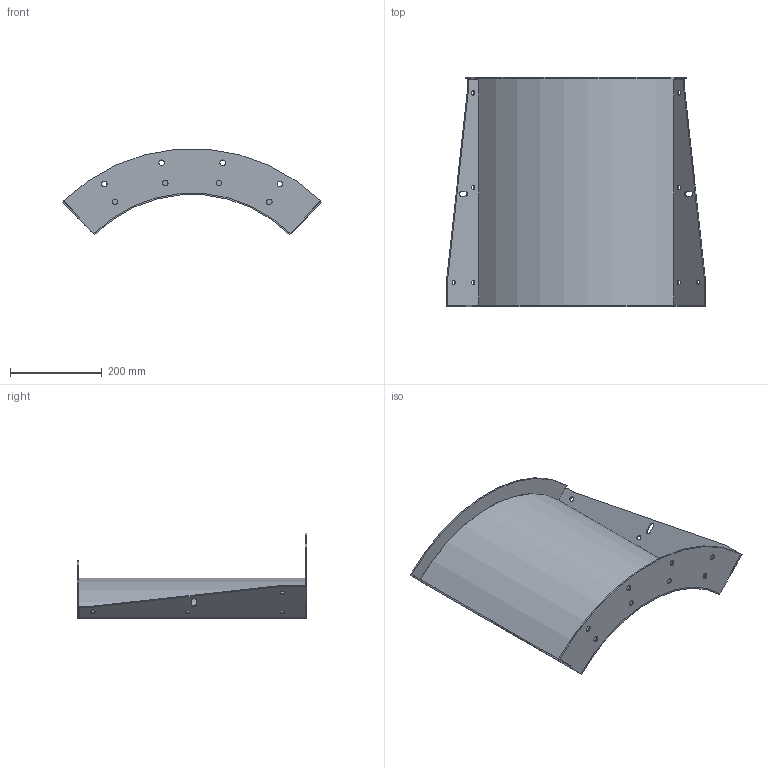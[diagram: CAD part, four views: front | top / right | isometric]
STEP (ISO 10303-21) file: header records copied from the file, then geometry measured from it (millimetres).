
FILE_DESCRIPTION (( 'STEP AP203' ), '1' );
FILE_NAME ('INV CURVE.STEP', '2026-03-31T11:57:06', ( '' ), ( '' ), 'SwSTEP 2.0', 'SolidWorks 2025', '' );
FILE_SCHEMA (( 'CONFIG_CONTROL_DESIGN' ));
Length unit declared in the file: millimetre
Products named in the file (5): TOP RETURN^INV CURVE; MAIN SHEET^INV CURVE; GS2; INV CURVE; BASE FLANGE^INV CURVE
Assembly tree (5 placements, depth 2):
  INV CURVE
    MAIN SHEET^INV CURVE
    BASE FLANGE^INV CURVE
    GS2  x2
    TOP RETURN^INV CURVE
Bounding box: 564.99 x 500 x 186.4 mm (x, y, z)
Volume: 1114023.6 mm3; surface area: 764465.4 mm2
Topology: 5 solids, 5 shells, 126 faces, 348 edges, 232 vertices
Faces by surface type: cylinder 70, plane 56
Entity records: 3225 total; most frequent: DIRECTION 494, CARTESIAN_POINT 460, ORIENTED_EDGE 444, EDGE_CURVE 222, AXIS2_PLACEMENT_3D 182, VERTEX_POINT 148, VECTOR 130, LINE 130
